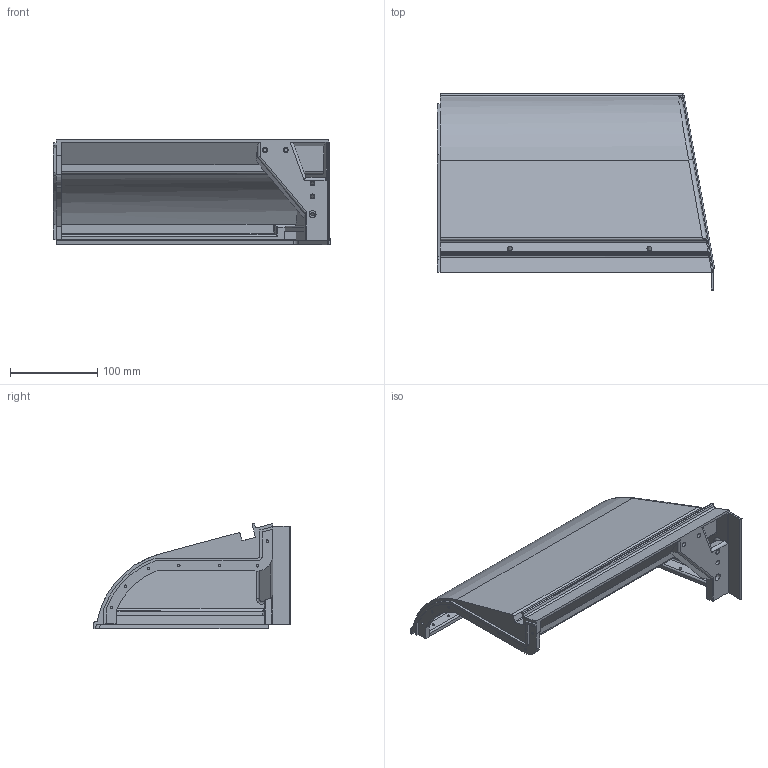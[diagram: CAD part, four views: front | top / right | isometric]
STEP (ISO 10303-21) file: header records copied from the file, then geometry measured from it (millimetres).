
FILE_DESCRIPTION(('STEP AP242 Edition 2','STEP AP242 Edition 2''CAx-IF Rec.Pracs.---Representation and Presentation of Product Manufacturing Information (PMI)---4.0---2014-10-13','STEP AP242 Edition 2''CAx-IF Rec.Pracs.---Representation and Presentation of Product Manufacturing Information (PMI)---4.0---2014-10-13''CAx-IF Rec.Pracs.---3D Tessellated Geometry---0.4---2014-09-14','STEP AP242 Edition 2''CAx-IF Rec.Pracs.---Representation and Presentation of Product Manufacturing Information (PMI)---4.0---2014-10-13''CAx-IF Rec.Pracs.---3D Tessellated Geometry---0.4---2014-09-14''2;1','STEP AP242 Edition 2''CAx-IF Rec.Pracs.---Representation and Presentation of Product Manufacturing Information (PMI)---4.0---2014-10-13''CAx-IF Rec.Pracs.---3D Tessellated Geometry---0.4---2014-09-14''2;1''CAx-IF Rec.Pracs.---User Defined Attributes---1.5---2016-08-15'),'2;1');
FILE_NAME('/vol/tmp/translate-5928582753522486027/Part Studio Body Front - Part Front Right Top - White Car Color.step','2026-05-02T13:02:45',(''),(''),'ST-DEVELOPER v20','ONSHAPE BY PTC INC, 1.214',' ');
FILE_SCHEMA(('AP242_MANAGED_MODEL_BASED_3D_ENGINEERING_MIM_LF { 1 0 10303 442 3 1 4 }'));
Length unit declared in the file: metre
Products named in the file (1): Part Front Right Top - White Car Color
Bounding box: 317.66 x 224.84 x 120.89 mm (x, y, z)
Volume: 993991.7 mm3; surface area: 239325.6 mm2
Topology: 1 solids, 1 shells, 195 faces, 544 edges, 353 vertices
Faces by surface type: cylinder 85, plane 79, bspline 22, cone 6, sphere 3
Full cylindrical faces by diameter (mm): 2.75 x23, 3 x6, 4 x5, 5.6 x6, 8 x1
Entity records: 7729 total; most frequent: CARTESIAN_POINT 2343, DIRECTION 1019, ORIENTED_EDGE 932, EDGE_CURVE 466, AXIS2_PLACEMENT_3D 386, VERTEX_POINT 332, FACE_BOUND 308, EDGE_LOOP 302
